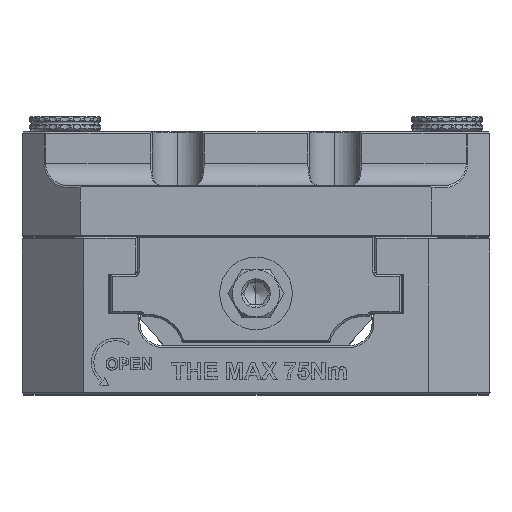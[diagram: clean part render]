
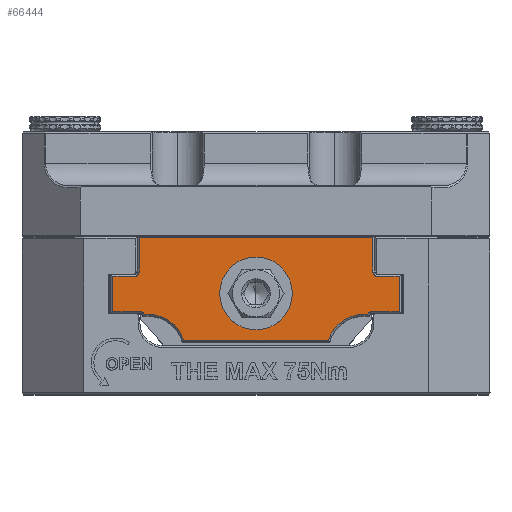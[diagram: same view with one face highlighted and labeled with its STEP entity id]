
A CAD part, top view. The second image highlights one B-rep face of the part: STEP entity #66444.
In plain terms, the highlighted planar face has unit normal (0, 0, 1).
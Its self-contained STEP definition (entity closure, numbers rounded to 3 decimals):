
#2441=DIRECTION('',(-1.,0.,0.));
#2442=VECTOR('',#2441,62.499);
#2443=CARTESIAN_POINT('',(94.115,41.655,138.211));
#2444=LINE('',#2443,#2442);
#3274=DIRECTION('',(1.,0.,0.));
#3275=VECTOR('',#3274,7.397);
#3276=CARTESIAN_POINT('',(24.615,21.71,138.211));
#3277=LINE('',#3276,#3275);
#3294=DIRECTION('',(0.,-1.,0.));
#3295=VECTOR('',#3294,9.5);
#3296=CARTESIAN_POINT('',(24.615,31.21,138.211));
#3297=LINE('',#3296,#3295);
#3338=CARTESIAN_POINT('',(32.012,20.56,138.211));
#3339=DIRECTION('',(0.,0.,1.));
#3340=DIRECTION('',(0.894,0.447,0.));
#3341=AXIS2_PLACEMENT_3D('',#3338,#3339,#3340);
#3343=DIRECTION('',(1.,0.,0.));
#3344=VECTOR('',#3343,5.85);
#3345=CARTESIAN_POINT('',(24.615,31.21,138.211));
#3346=LINE('',#3345,#3344);
#3347=CARTESIAN_POINT('',(30.465,32.36,138.211));
#3348=DIRECTION('',(0.,0.,1.));
#3349=DIRECTION('',(0.,-1.,0.));
#3350=AXIS2_PLACEMENT_3D('',#3347,#3348,#3349);
#3352=DIRECTION('',(0.,1.,0.));
#3353=VECTOR('',#3352,9.295);
#3354=CARTESIAN_POINT('',(31.615,32.36,138.211));
#3355=LINE('',#3354,#3353);
#3356=CARTESIAN_POINT('',(95.265,32.355,138.211));
#3357=DIRECTION('',(0.,0.,1.));
#3358=DIRECTION('',(-1.,0.,0.));
#3359=AXIS2_PLACEMENT_3D('',#3356,#3357,#3358);
#3361=DIRECTION('',(1.,0.,0.));
#3362=VECTOR('',#3361,5.85);
#3363=CARTESIAN_POINT('',(95.265,31.205,138.211));
#3364=LINE('',#3363,#3362);
#3365=DIRECTION('',(0.,-1.,0.));
#3366=VECTOR('',#3365,9.495);
#3367=CARTESIAN_POINT('',(101.115,31.205,138.211));
#3368=LINE('',#3367,#3366);
#3369=DIRECTION('',(-1.,0.,0.));
#3370=VECTOR('',#3369,7.396);
#3371=CARTESIAN_POINT('',(101.115,21.71,138.211));
#3372=LINE('',#3371,#3370);
#3373=CARTESIAN_POINT('',(93.718,20.56,138.21));
#3374=DIRECTION('',(0.,0.,1.));
#3375=DIRECTION('',(0.,1.,0.));
#3376=AXIS2_PLACEMENT_3D('',#3373,#3374,#3375);
#3378=CARTESIAN_POINT('',(91.716,11.053,138.211));
#3379=DIRECTION('',(0.,0.,1.));
#3380=DIRECTION('',(-0.029,1.,0.));
#3381=AXIS2_PLACEMENT_3D('',#3378,#3379,#3380);
#3383=CARTESIAN_POINT('',(34.014,11.053,138.211));
#3384=DIRECTION('',(0.,0.,1.));
#3385=DIRECTION('',(0.949,0.314,0.));
#3386=AXIS2_PLACEMENT_3D('',#3383,#3384,#3385);
#3388=DIRECTION('',(-1.,0.,0.));
#3389=VECTOR('',#3388,1.264);
#3390=CARTESIAN_POINT('',(34.304,21.074,138.211));
#3391=LINE('',#3390,#3389);
#3392=CARTESIAN_POINT('',(62.865,26.645,138.211));
#3393=DIRECTION('',(0.,0.,-1.));
#3394=DIRECTION('',(-1.,0.,0.));
#3395=AXIS2_PLACEMENT_3D('',#3392,#3393,#3394);
#3401=CARTESIAN_POINT('',(62.865,26.645,138.211));
#3402=DIRECTION('',(0.,0.,-1.));
#3403=DIRECTION('',(1.,0.,0.));
#3404=AXIS2_PLACEMENT_3D('',#3401,#3402,#3403);
#3908=CARTESIAN_POINT('',(33.04,21.074,138.211));
#3930=DIRECTION('',(1.,0.,0.));
#3931=VECTOR('',#3930,38.668);
#3932=CARTESIAN_POINT('',(43.531,14.205,138.211));
#3933=LINE('',#3932,#3931);
#3961=DIRECTION('',(1.,0.,0.));
#3962=VECTOR('',#3961,1.264);
#3963=CARTESIAN_POINT('',(91.426,21.074,138.211));
#3964=LINE('',#3963,#3962);
#8612=DIRECTION('',(0.,1.,0.));
#8613=VECTOR('',#8612,9.3);
#8614=CARTESIAN_POINT('',(94.115,32.355,138.211));
#8615=LINE('',#8614,#8613);
#51226=CARTESIAN_POINT('',(24.615,21.71,138.211));
#51227=VERTEX_POINT('',#51226);
#51228=CARTESIAN_POINT('',(32.012,21.709,138.21));
#51229=VERTEX_POINT('',#51228);
#51258=VERTEX_POINT('',#3908);
#51259=CARTESIAN_POINT('',(34.304,21.074,138.211));
#51260=VERTEX_POINT('',#51259);
#51261=CARTESIAN_POINT('',(24.615,31.21,138.211));
#51262=VERTEX_POINT('',#51261);
#51263=CARTESIAN_POINT('',(30.465,31.21,138.211));
#51264=VERTEX_POINT('',#51263);
#51265=CARTESIAN_POINT('',(31.615,32.359,138.211));
#51266=VERTEX_POINT('',#51265);
#51267=CARTESIAN_POINT('',(31.615,41.655,138.211));
#51268=VERTEX_POINT('',#51267);
#51269=CARTESIAN_POINT('',(94.115,41.655,138.211));
#51270=VERTEX_POINT('',#51269);
#51271=CARTESIAN_POINT('',(94.115,32.355,138.211));
#51272=VERTEX_POINT('',#51271);
#51273=CARTESIAN_POINT('',(95.265,31.205,138.211));
#51274=VERTEX_POINT('',#51273);
#51275=CARTESIAN_POINT('',(101.115,31.205,138.211));
#51276=VERTEX_POINT('',#51275);
#51277=CARTESIAN_POINT('',(101.115,21.71,138.211));
#51278=VERTEX_POINT('',#51277);
#51279=CARTESIAN_POINT('',(93.719,21.71,138.211));
#51280=VERTEX_POINT('',#51279);
#51281=CARTESIAN_POINT('',(92.69,21.074,138.21));
#51282=VERTEX_POINT('',#51281);
#51283=CARTESIAN_POINT('',(91.426,21.074,138.211));
#51284=VERTEX_POINT('',#51283);
#51285=CARTESIAN_POINT('',(82.199,14.205,138.211));
#51286=VERTEX_POINT('',#51285);
#51287=CARTESIAN_POINT('',(43.531,14.205,138.211));
#51288=VERTEX_POINT('',#51287);
#63183=CARTESIAN_POINT('',(53.165,26.645,138.211));
#63184=CARTESIAN_POINT('',(72.565,26.645,138.211));
#63185=VERTEX_POINT('',#63183);
#63186=VERTEX_POINT('',#63184);
#66401=CARTESIAN_POINT('',(91.716,11.053,138.211));
#66402=DIRECTION('',(0.,0.,1.));
#66403=DIRECTION('',(1.,0.,0.));
#66404=AXIS2_PLACEMENT_3D('',#66401,#66402,#66403);
#66405=PLANE('',#66404);
#66407=ORIENTED_EDGE('',*,*,#66406,.T.);
#66408=ORIENTED_EDGE('',*,*,#66318,.F.);
#66409=ORIENTED_EDGE('',*,*,#66339,.F.);
#66410=ORIENTED_EDGE('',*,*,#66381,.T.);
#66411=ORIENTED_EDGE('',*,*,#66393,.T.);
#66412=ORIENTED_EDGE('',*,*,#65778,.T.);
#66413=ORIENTED_EDGE('',*,*,#65353,.F.);
#66415=ORIENTED_EDGE('',*,*,#66414,.F.);
#66417=ORIENTED_EDGE('',*,*,#66416,.T.);
#66419=ORIENTED_EDGE('',*,*,#66418,.T.);
#66421=ORIENTED_EDGE('',*,*,#66420,.T.);
#66423=ORIENTED_EDGE('',*,*,#66422,.T.);
#66425=ORIENTED_EDGE('',*,*,#66424,.T.);
#66427=ORIENTED_EDGE('',*,*,#66426,.F.);
#66429=ORIENTED_EDGE('',*,*,#66428,.T.);
#66431=ORIENTED_EDGE('',*,*,#66430,.F.);
#66433=ORIENTED_EDGE('',*,*,#66432,.T.);
#66435=ORIENTED_EDGE('',*,*,#66434,.T.);
#66436=EDGE_LOOP('',(#66407,#66408,#66409,#66410,#66411,#66412,#66413,#66415,
#66417,#66419,#66421,#66423,#66425,#66427,#66429,#66431,#66433,#66435));
#66437=FACE_OUTER_BOUND('',#66436,.F.);
#66439=ORIENTED_EDGE('',*,*,#66438,.F.);
#66441=ORIENTED_EDGE('',*,*,#66440,.F.);
#66442=EDGE_LOOP('',(#66439,#66441));
#66443=FACE_BOUND('',#66442,.F.);
#66444=ADVANCED_FACE('',(#66437,#66443),#66405,.T.);
#3342=CIRCLE('',#3341,1.15);
#3351=CIRCLE('',#3350,1.15);
#3360=CIRCLE('',#3359,1.15);
#3377=CIRCLE('',#3376,1.15);
#3382=CIRCLE('',#3381,10.025);
#3387=CIRCLE('',#3386,10.025);
#3396=CIRCLE('',#3395,9.7);
#3405=CIRCLE('',#3404,9.7);
#65353=EDGE_CURVE('',#51270,#51268,#2444,.T.);
#65778=EDGE_CURVE('',#51266,#51268,#3355,.T.);
#66318=EDGE_CURVE('',#51227,#51229,#3277,.T.);
#66339=EDGE_CURVE('',#51262,#51227,#3297,.T.);
#66381=EDGE_CURVE('',#51262,#51264,#3346,.T.);
#66393=EDGE_CURVE('',#51264,#51266,#3351,.T.);
#66406=EDGE_CURVE('',#51258,#51229,#3342,.T.);
#66414=EDGE_CURVE('',#51272,#51270,#8615,.T.);
#66416=EDGE_CURVE('',#51272,#51274,#3360,.T.);
#66418=EDGE_CURVE('',#51274,#51276,#3364,.T.);
#66420=EDGE_CURVE('',#51276,#51278,#3368,.T.);
#66422=EDGE_CURVE('',#51278,#51280,#3372,.T.);
#66424=EDGE_CURVE('',#51280,#51282,#3377,.T.);
#66426=EDGE_CURVE('',#51284,#51282,#3964,.T.);
#66428=EDGE_CURVE('',#51284,#51286,#3382,.T.);
#66430=EDGE_CURVE('',#51288,#51286,#3933,.T.);
#66432=EDGE_CURVE('',#51288,#51260,#3387,.T.);
#66434=EDGE_CURVE('',#51260,#51258,#3391,.T.);
#66438=EDGE_CURVE('',#63185,#63186,#3396,.T.);
#66440=EDGE_CURVE('',#63186,#63185,#3405,.T.);
